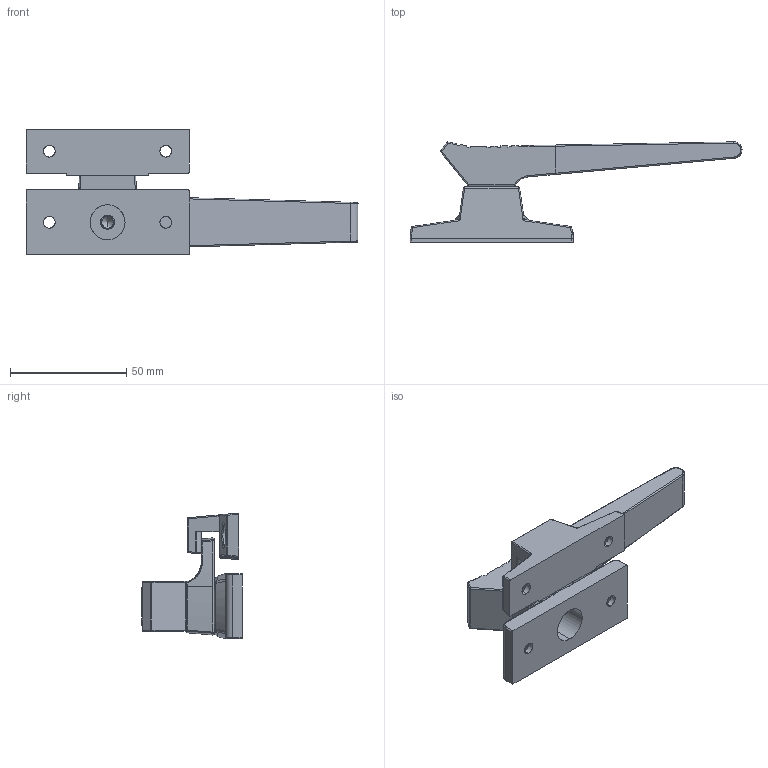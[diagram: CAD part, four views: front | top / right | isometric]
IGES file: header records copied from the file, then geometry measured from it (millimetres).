
Start section: SolidWorks IGES file using analytic representation for surfaces
Global section: file name: D:\尚坤工业图纸\SK1--门锁系列\SK1-8118-2\SK1-8118-2.IGS; native system: SolidWorks 2015; preprocessor: SolidWorks 2015; author: admin; date: 181101.114638; units: millimetre
Bounding box: 142.5 x 43 x 54 mm (x, y, z)
Surface area: 23015.7 mm2 (no closed solid volume)
Topology: 0 solids, 0 shells, 258 faces, 2173 edges, 2160 vertices
Faces by surface type: revolution 138, bspline 120
